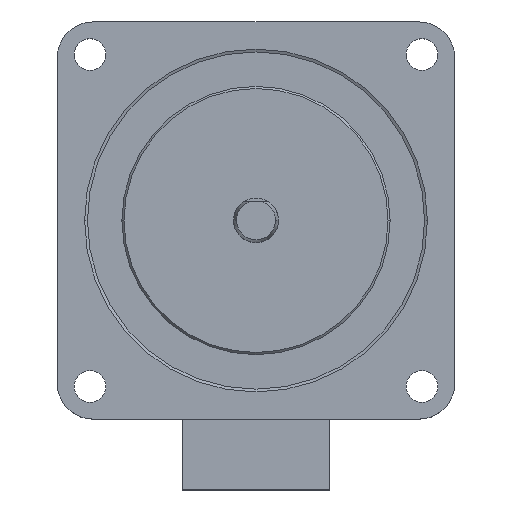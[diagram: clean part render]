
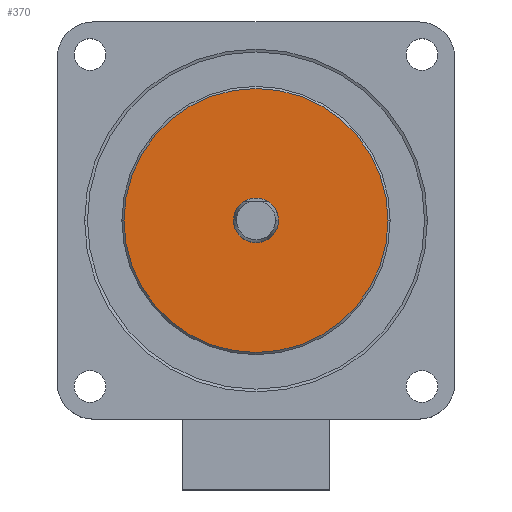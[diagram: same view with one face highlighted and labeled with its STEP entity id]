
A CAD part, top view. The second image highlights one B-rep face of the part: STEP entity #370.
In plain terms, the highlighted planar face has unit normal (0, 0, 1).
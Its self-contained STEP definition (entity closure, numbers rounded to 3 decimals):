
#2 = CARTESIAN_POINT ( 'NONE',  ( 3.175, 0., 0. ) ) ;
#84 = EDGE_CURVE ( 'NONE', #1263, #2181, #1910, .T. ) ;
#119 = EDGE_CURVE ( 'NONE', #1061, #1043, #944, .T. ) ;
#211 = CARTESIAN_POINT ( 'NONE',  ( -3.175, 0., 0. ) ) ;
#350 = DIRECTION ( 'NONE',  ( -1., 0., 0. ) ) ;
#370 = ADVANCED_FACE ( 'NONE', ( #1700, #921 ), #1304, .F. ) ;
#402 = CARTESIAN_POINT ( 'NONE',  ( 0., 0., 0. ) ) ;
#409 = DIRECTION ( 'NONE',  ( -1., 0., 0. ) ) ;
#502 = ORIENTED_EDGE ( 'NONE', *, *, #84, .T. ) ;
#557 = DIRECTION ( 'NONE',  ( -1., 0., 0. ) ) ;
#571 = DIRECTION ( 'NONE',  ( 0., 0., 1. ) ) ;
#632 = DIRECTION ( 'NONE',  ( -1., 0., 0. ) ) ;
#640 = DIRECTION ( 'NONE',  ( 0., 0., -1. ) ) ;
#675 = AXIS2_PLACEMENT_3D ( 'NONE', #801, #571, #350 ) ;
#788 = DIRECTION ( 'NONE',  ( 0., 0., -1. ) ) ;
#801 = CARTESIAN_POINT ( 'NONE',  ( 0., 0., 0. ) ) ;
#819 = EDGE_LOOP ( 'NONE', ( #1149, #1498 ) ) ;
#858 = DIRECTION ( 'NONE',  ( 0., 0., -1. ) ) ;
#864 = CARTESIAN_POINT ( 'NONE',  ( 0., 0., 0. ) ) ;
#917 = AXIS2_PLACEMENT_3D ( 'NONE', #864, #640, #409 ) ;
#921 = FACE_BOUND ( 'NONE', #819, .T. ) ;
#944 = CIRCLE ( 'NONE', #917, 3.175 ) ;
#1040 = CARTESIAN_POINT ( 'NONE',  ( 0., 0., 0. ) ) ;
#1043 = VERTEX_POINT ( 'NONE', #211 ) ;
#1061 = VERTEX_POINT ( 'NONE', #2 ) ;
#1149 = ORIENTED_EDGE ( 'NONE', *, *, #1323, .T. ) ;
#1203 = AXIS2_PLACEMENT_3D ( 'NONE', #1040, #788, #557 ) ;
#1263 = VERTEX_POINT ( 'NONE', #2001 ) ;
#1304 = PLANE ( 'NONE',  #1203 ) ;
#1323 = EDGE_CURVE ( 'NONE', #1043, #1061, #1746, .T. ) ;
#1329 = EDGE_CURVE ( 'NONE', #2181, #1263, #2280, .T. ) ;
#1392 = CARTESIAN_POINT ( 'NONE',  ( 0., 0., 0. ) ) ;
#1498 = ORIENTED_EDGE ( 'NONE', *, *, #119, .T. ) ;
#1559 = EDGE_LOOP ( 'NONE', ( #1766, #502 ) ) ;
#1587 = DIRECTION ( 'NONE',  ( -1., 0., 0. ) ) ;
#1597 = AXIS2_PLACEMENT_3D ( 'NONE', #1392, #858, #632 ) ;
#1629 = AXIS2_PLACEMENT_3D ( 'NONE', #402, #1828, #1587 ) ;
#1700 = FACE_OUTER_BOUND ( 'NONE', #1559, .T. ) ;
#1746 = CIRCLE ( 'NONE', #1597, 3.175 ) ;
#1766 = ORIENTED_EDGE ( 'NONE', *, *, #1329, .T. ) ;
#1828 = DIRECTION ( 'NONE',  ( 0., 0., 1. ) ) ;
#1910 = CIRCLE ( 'NONE', #675, 18.75 ) ;
#2001 = CARTESIAN_POINT ( 'NONE',  ( 18.75, 0., 0. ) ) ;
#2122 = CARTESIAN_POINT ( 'NONE',  ( -18.75, 0., 0. ) ) ;
#2181 = VERTEX_POINT ( 'NONE', #2122 ) ;
#2280 = CIRCLE ( 'NONE', #1629, 18.75 ) ;
